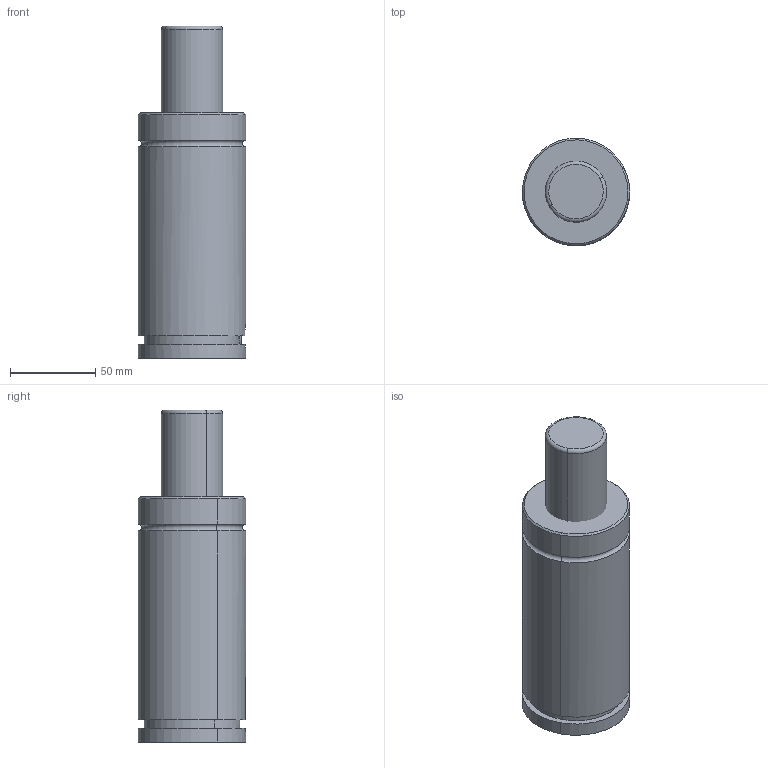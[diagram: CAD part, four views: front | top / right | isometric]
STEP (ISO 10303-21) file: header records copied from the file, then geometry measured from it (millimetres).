
FILE_DESCRIPTION(('CATIA V5 STEP Exchange'),'2;1');
FILE_NAME('W:\CATALOGO GENERAL 2018\FICHEROS CAD\005-TPSP\TPSP 1500\TPSP 1500x50.stp','2017-11-21T08:48:41+00:00',('none'),('none'),'CATIA Version 5 Release 17 (IN-10)','CATIA V5 STEP AP203','none');
FILE_SCHEMA(('CONFIG_CONTROL_DESIGN'));
Length unit declared in the file: millimetre
Products named in the file (1): TPSP 1500x50
Assembly tree (3 placements, depth 2):
  TPSP 1500x50
    #56
    #1015
    #1162
Bounding box: 62.99 x 62.98 x 195 mm (x, y, z)
Volume: 542311.7 mm3; surface area: 52430.9 mm2
Topology: 3 solids, 3 shells, 117 faces, 244 edges, 142 vertices
Faces by surface type: cone 32, cylinder 31, torus 30, plane 24
Entity records: 2903 total; most frequent: CARTESIAN_POINT 540, ORIENTED_EDGE 488, DIRECTION 392, EDGE_CURVE 244, AXIS2_PLACEMENT_3D 233, CIRCLE 152, VERTEX_POINT 142, EDGE_LOOP 126
